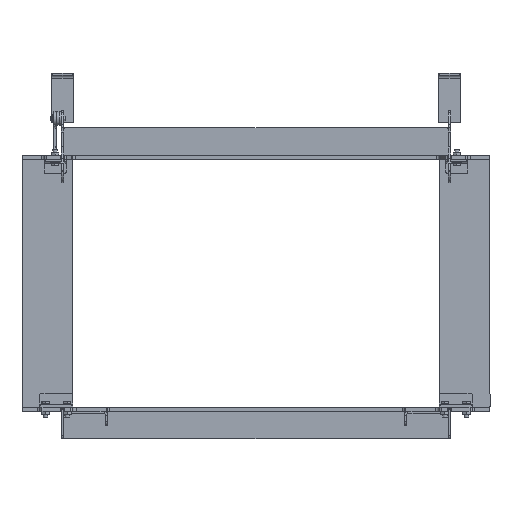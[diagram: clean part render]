
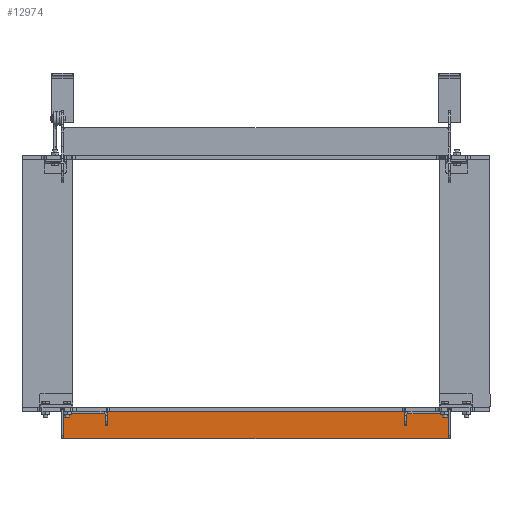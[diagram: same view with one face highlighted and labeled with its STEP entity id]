
A CAD part, front view. The second image highlights one B-rep face of the part: STEP entity #12974.
In plain terms, the highlighted planar face has unit normal (0, -1, 0).
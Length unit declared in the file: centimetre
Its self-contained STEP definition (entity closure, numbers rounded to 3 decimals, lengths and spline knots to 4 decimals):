
#737=LINE('',#20432,#1852);
#756=LINE('',#20495,#1871);
#778=LINE('',#20554,#1893);
#791=LINE('',#20587,#1906);
#792=LINE('',#20589,#1907);
#793=LINE('',#20591,#1908);
#794=LINE('',#20595,#1909);
#795=LINE('',#20597,#1910);
#796=LINE('',#20601,#1911);
#797=LINE('',#20604,#1912);
#1852=VECTOR('',#16222,4.);
#1871=VECTOR('',#16283,0.4);
#1893=VECTOR('',#16343,0.2375);
#1906=VECTOR('',#16388,69.2249);
#1907=VECTOR('',#16389,0.4);
#1908=VECTOR('',#16390,0.2375);
#1909=VECTOR('',#16393,4.);
#1910=VECTOR('',#16394,0.1);
#1911=VECTOR('',#16397,69.9);
#1912=VECTOR('',#16400,0.1);
#3164=FACE_OUTER_BOUND('',#3959,.T.);
#3959=EDGE_LOOP('',(#9609,#9610,#9611,#9612,#9613,#9614,#9615,#9616,#9617,
#9618,#9619,#9620,#9621,#9622));
#4662=CIRCLE('',#13945,0.3);
#4676=CIRCLE('',#13994,0.3);
#4677=CIRCLE('',#13995,0.2);
#4678=CIRCLE('',#13996,0.2);
#5510=VERTEX_POINT('',#20156);
#5551=VERTEX_POINT('',#20431);
#5560=VERTEX_POINT('',#20453);
#5564=VERTEX_POINT('',#20489);
#5566=VERTEX_POINT('',#20493);
#5588=VERTEX_POINT('',#20586);
#5589=VERTEX_POINT('',#20588);
#5590=VERTEX_POINT('',#20590);
#5591=VERTEX_POINT('',#20592);
#5592=VERTEX_POINT('',#20594);
#5593=VERTEX_POINT('',#20596);
#5594=VERTEX_POINT('',#20598);
#5595=VERTEX_POINT('',#20600);
#5596=VERTEX_POINT('',#20602);
#6971=EDGE_CURVE('',#5510,#5551,#737,.T.);
#6983=EDGE_CURVE('',#5510,#5560,#4662,.T.);
#7000=EDGE_CURVE('',#5564,#5566,#756,.T.);
#7030=EDGE_CURVE('',#5560,#5564,#778,.T.);
#7046=EDGE_CURVE('',#5588,#5566,#791,.T.);
#7047=EDGE_CURVE('',#5588,#5589,#792,.T.);
#7048=EDGE_CURVE('',#5589,#5590,#793,.T.);
#7049=EDGE_CURVE('',#5590,#5591,#4676,.T.);
#7050=EDGE_CURVE('',#5592,#5591,#794,.T.);
#7051=EDGE_CURVE('',#5593,#5592,#795,.T.);
#7052=EDGE_CURVE('',#5594,#5593,#4677,.T.);
#7053=EDGE_CURVE('',#5595,#5594,#796,.T.);
#7054=EDGE_CURVE('',#5596,#5595,#4678,.T.);
#7055=EDGE_CURVE('',#5551,#5596,#797,.T.);
#9609=ORIENTED_EDGE('',*,*,#6983,.T.);
#9610=ORIENTED_EDGE('',*,*,#7030,.T.);
#9611=ORIENTED_EDGE('',*,*,#7000,.T.);
#9612=ORIENTED_EDGE('',*,*,#7046,.F.);
#9613=ORIENTED_EDGE('',*,*,#7047,.T.);
#9614=ORIENTED_EDGE('',*,*,#7048,.T.);
#9615=ORIENTED_EDGE('',*,*,#7049,.T.);
#9616=ORIENTED_EDGE('',*,*,#7050,.F.);
#9617=ORIENTED_EDGE('',*,*,#7051,.F.);
#9618=ORIENTED_EDGE('',*,*,#7052,.F.);
#9619=ORIENTED_EDGE('',*,*,#7053,.F.);
#9620=ORIENTED_EDGE('',*,*,#7054,.F.);
#9621=ORIENTED_EDGE('',*,*,#7055,.F.);
#9622=ORIENTED_EDGE('',*,*,#6971,.F.);
#11869=PLANE('',#13993);
#12974=ADVANCED_FACE('',(#3164),#11869,.T.);
#13945=AXIS2_PLACEMENT_3D('',#20455,#16243,#16244);
#13993=AXIS2_PLACEMENT_3D('',#20585,#16386,#16387);
#13994=AXIS2_PLACEMENT_3D('',#20593,#16391,#16392);
#13995=AXIS2_PLACEMENT_3D('',#20599,#16395,#16396);
#13996=AXIS2_PLACEMENT_3D('',#20603,#16398,#16399);
#16222=DIRECTION('',(0.,0.,-1.));
#16243=DIRECTION('center_axis',(0.,-1.,0.));
#16244=DIRECTION('ref_axis',(0.,0.,
1.));
#16283=DIRECTION('',(0.,0.,1.));
#16343=DIRECTION('',(-1.,0.,0.));
#16386=DIRECTION('center_axis',(0.,-1.,0.));
#16387=DIRECTION('ref_axis',(1.,0.,0.));
#16388=DIRECTION('',(1.,0.,0.));
#16389=DIRECTION('',(0.,0.,-1.));
#16390=DIRECTION('',(-1.,0.,0.));
#16391=DIRECTION('center_axis',(0.,-1.,0.));
#16392=DIRECTION('ref_axis',(0.,0.,
1.));
#16393=DIRECTION('',(0.,0.,1.));
#16394=DIRECTION('',(0.,0.,1.));
#16395=DIRECTION('center_axis',(0.,1.,0.));
#16396=DIRECTION('ref_axis',(-0.707,0.,-0.707));
#16397=DIRECTION('',(-1.,0.,0.));
#16398=DIRECTION('center_axis',(0.,1.,0.));
#16399=DIRECTION('ref_axis',(0.707,0.,-0.707));
#16400=DIRECTION('',(0.,0.,-1.));
#20156=CARTESIAN_POINT('',(35.15,-10.15,-46.7));
#20431=CARTESIAN_POINT('',(35.15,-10.15,-50.7));
#20432=CARTESIAN_POINT('',(35.15,-10.15,-51.));
#20453=CARTESIAN_POINT('',(34.85,-10.15,-46.4));
#20455=CARTESIAN_POINT('Origin',(34.85,-10.15,-46.7));
#20489=CARTESIAN_POINT('',(34.6125,-10.15,-46.4));
#20493=CARTESIAN_POINT('',(34.6125,-10.15,-46.));
#20495=CARTESIAN_POINT('',(34.6125,-10.15,-46.));
#20554=CARTESIAN_POINT('',(16.275,-10.15,-46.4));
#20585=CARTESIAN_POINT('Origin',(0.,-10.15,
-48.5));
#20586=CARTESIAN_POINT('',(-34.6125,-10.15,-46.));
#20587=CARTESIAN_POINT('',(0.,-10.15,-46.));
#20588=CARTESIAN_POINT('',(-34.6125,-10.15,-46.4));
#20589=CARTESIAN_POINT('',(-34.6125,-10.15,-46.));
#20590=CARTESIAN_POINT('',(-34.85,-10.15,-46.4));
#20591=CARTESIAN_POINT('',(-16.275,-10.15,-46.4));
#20592=CARTESIAN_POINT('',(-35.15,-10.15,-46.7));
#20593=CARTESIAN_POINT('Origin',(-34.85,-10.15,-46.7));
#20594=CARTESIAN_POINT('',(-35.15,-10.15,-50.7));
#20595=CARTESIAN_POINT('',(-35.15,-10.15,-46.));
#20596=CARTESIAN_POINT('',(-35.15,-10.15,-50.8));
#20597=CARTESIAN_POINT('',(-35.15,-10.15,-46.));
#20598=CARTESIAN_POINT('',(-34.95,-10.15,-51.));
#20599=CARTESIAN_POINT('Origin',(-34.95,-10.15,-50.8));
#20600=CARTESIAN_POINT('',(34.95,-10.15,-51.));
#20601=CARTESIAN_POINT('',(-35.15,-10.15,-51.));
#20602=CARTESIAN_POINT('',(35.15,-10.15,-50.8));
#20603=CARTESIAN_POINT('Origin',(34.95,-10.15,-50.8));
#20604=CARTESIAN_POINT('',(35.15,-10.15,-51.));
